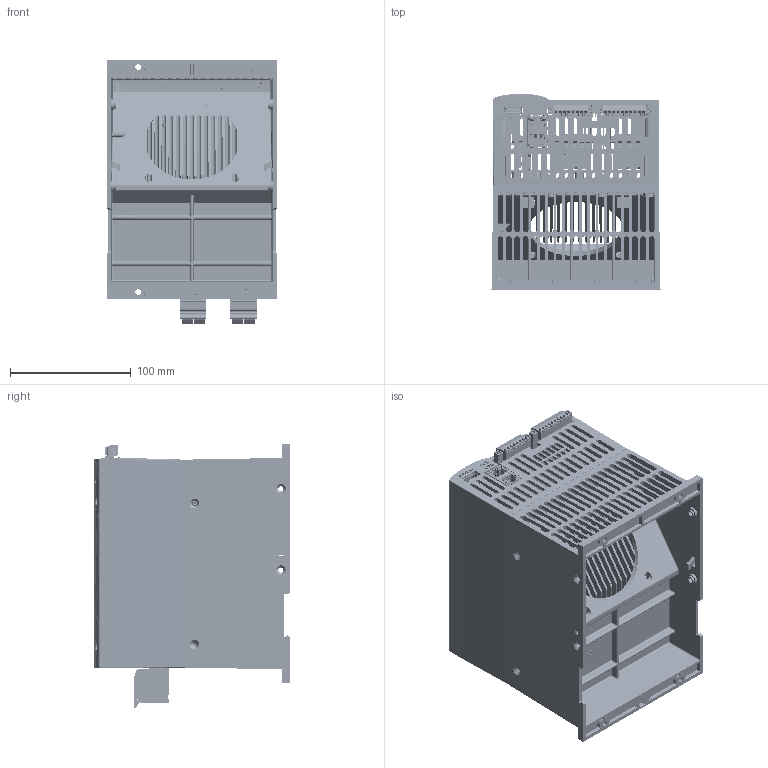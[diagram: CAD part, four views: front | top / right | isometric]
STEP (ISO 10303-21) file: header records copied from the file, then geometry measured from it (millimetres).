
FILE_DESCRIPTION(/* description */ (''),/* implementation_level */ '2;1');
FILE_NAME(/* name */ 'MicroFUSION 3-phase 2-Leg 8-32A.stp',/* time_stamp */ '2025-05-22T09:19:03-05:00',/* author */ ('PRD'),/* organization */ ('Control Concepts, Inc'),/* preprocessor_version */ 'ST-DEVELOPER v20',/* originating_system */ 'Autodesk Inventor 2025',/* authorisation */ '');
FILE_SCHEMA (('AUTOMOTIVE_DESIGN { 1 0 10303 214 3 1 1 }'));
Products named in the file (17): microfusion 3Ø 0-80a; 3001272; 3001267; 3001275; terninal block 600v 1790351; SCUF-3HX; USB_Ub_Vert_1051330031_1051330031-1; 0057721-0138-10; 8053142-1004-19; 0057721-0138-08; 0053155-0000-0016; ANSI B18.6.3 - No. 6 - 32 - 3/8; 3001276; 0053109-0400-02; 0053030-0138-08-S; 0053030-0138-10-S; 3001274
Assembly tree (20 placements, depth 3):
  microfusion 3Ø 0-80a
    3001272
    3001267
    3001275
    terninal block 600v 1790351
    SCUF-3HX
      USB_Ub_Vert_1051330031_1051330031-1
      0057721-0138-10
      8053142-1004-19
      0057721-0138-08
      0053155-0000-0016
    ANSI B18.6.3 - No. 6 - 32 - 3/8  x4
    3001276
    0053109-0400-02  x2
    0053030-0138-08-S
    0053030-0138-10-S
    3001274
Bounding box: 139.71 x 162.05 x 218.05 mm (x, y, z)
Volume: 872737.7 mm3; surface area: 607171.9 mm2
Topology: 22 solids, 2622 shells, 12067 faces, 39610 edges, 30572 vertices
Faces by surface type: plane 8815, cylinder 2292, cone 403, bspline 315, torus 173, sphere 69
Full cylindrical faces by diameter (mm): 1.118 x1, 1.8 x4, 2 x32, 2.2 x8, 2.438 x2, 2.5 x12, 2.6 x4, 2.845 x4, 2.95 x18, 3.048 x3, 3.251 x3, 3.505 x4, 3.9 x4, 4.191 x4, 6.858 x4
Entity records: 464970 total; most frequent: CARTESIAN_POINT 124321, DIRECTION 65527, ORIENTED_EDGE 62465, EDGE_CURVE 37969, LINE 30483, VECTOR 30483, VERTEX_POINT 29500, AXIS2_PLACEMENT_3D 17522
